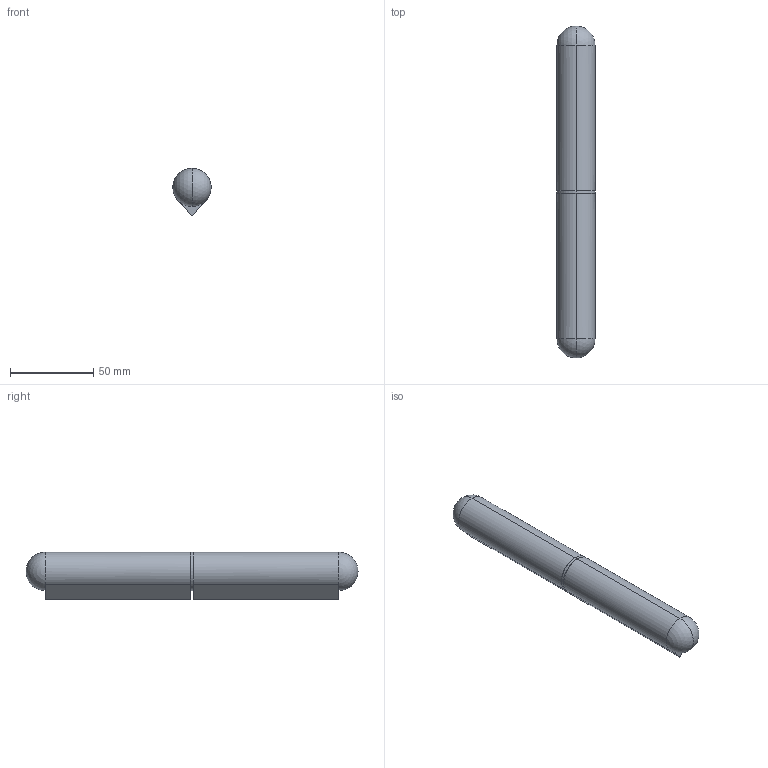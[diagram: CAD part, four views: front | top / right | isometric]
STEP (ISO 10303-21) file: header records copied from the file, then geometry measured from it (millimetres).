
FILE_DESCRIPTION (( 'STEP AP214' ), '1' );
FILE_NAME ('7011.00.200.STEP', '2021-01-21T03:27:12', ( '' ), ( '' ), 'SwSTEP 2.0', 'SolidWorks 2018', '' );
FILE_SCHEMA (( 'AUTOMOTIVE_DESIGN' ));
Length unit declared in the file: millimetre
Products named in the file (4): 7011.00.200; 7011.00-3_7011.00.200; 7011.00-1_7004.00.200; 7011.00-2_7011.00.200
Assembly tree (4 placements, depth 2):
  7011.00.200
    7011.00-1_7004.00.200  x2
    7011.00-2_7011.00.200
    7011.00-3_7011.00.200
Bounding box: 23 x 200 x 28.5 mm (x, y, z)
Volume: 85196 mm3; surface area: 33055.5 mm2
Topology: 4 solids, 4 shells, 45 faces, 104 edges, 63 vertices
Faces by surface type: cylinder 18, plane 13, torus 8, sphere 6
Entity records: 1100 total; most frequent: DIRECTION 188, CARTESIAN_POINT 142, ORIENTED_EDGE 128, AXIS2_PLACEMENT_3D 85, EDGE_CURVE 64, CIRCLE 46, VERTEX_POINT 39, EDGE_LOOP 35
